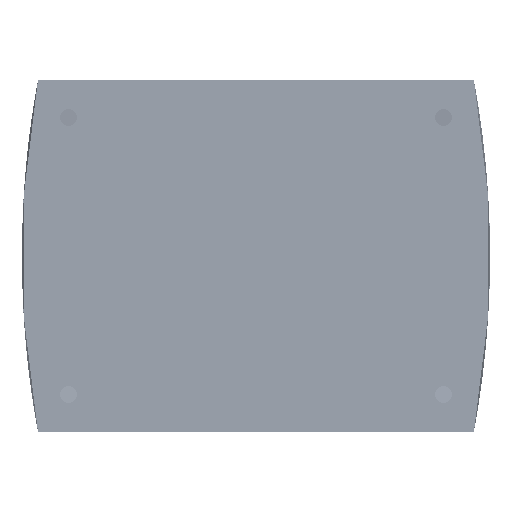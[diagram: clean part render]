
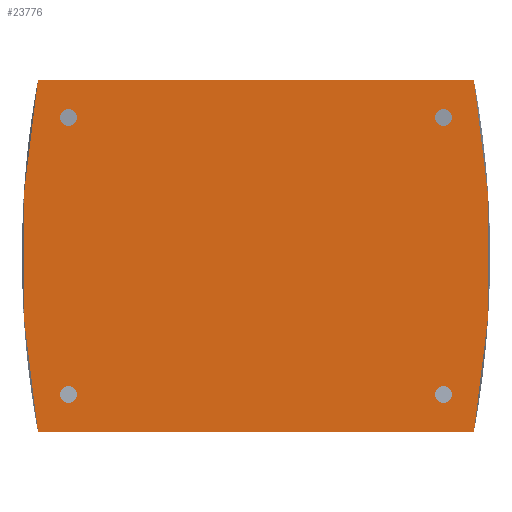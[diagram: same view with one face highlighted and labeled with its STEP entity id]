
A CAD part, front view. The second image highlights one B-rep face of the part: STEP entity #23776.
In plain terms, the highlighted planar face has unit normal (0, -1, 0).
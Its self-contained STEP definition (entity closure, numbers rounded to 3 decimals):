
#1860=FACE_BOUND('',#4768,.T.);
#1861=FACE_BOUND('',#4769,.T.);
#1862=FACE_BOUND('',#4770,.T.);
#1863=FACE_BOUND('',#4771,.T.);
#2089=CIRCLE('',#25510,10.151);
#2090=CIRCLE('',#25513,10.151);
#2091=CIRCLE('',#25514,0.089);
#2092=CIRCLE('',#25515,0.089);
#2093=CIRCLE('',#25516,0.089);
#2094=CIRCLE('',#25517,0.089);
#3359=FACE_OUTER_BOUND('',#4767,.T.);
#4767=EDGE_LOOP('',(#18020,#18021,#18022,#18023));
#4768=EDGE_LOOP('',(#18024));
#4769=EDGE_LOOP('',(#18025));
#4770=EDGE_LOOP('',(#18026));
#4771=EDGE_LOOP('',(#18027));
#6583=LINE('',#38205,#8422);
#6626=LINE('',#38290,#8465);
#8422=VECTOR('',#29152,0.394);
#8465=VECTOR('',#29203,0.394);
#10315=VERTEX_POINT('',#38202);
#10316=VERTEX_POINT('',#38204);
#10336=VERTEX_POINT('',#38249);
#10337=VERTEX_POINT('',#38253);
#10355=VERTEX_POINT('',#38293);
#10356=VERTEX_POINT('',#38295);
#10357=VERTEX_POINT('',#38297);
#10358=VERTEX_POINT('',#38299);
#13092=EDGE_CURVE('',#10315,#10316,#6583,.T.);
#13115=EDGE_CURVE('',#10336,#10316,#2089,.T.);
#13136=EDGE_CURVE('',#10336,#10337,#6626,.T.);
#13137=EDGE_CURVE('',#10315,#10337,#2090,.T.);
#13138=EDGE_CURVE('',#10355,#10355,#2091,.T.);
#13139=EDGE_CURVE('',#10356,#10356,#2092,.T.);
#13140=EDGE_CURVE('',#10357,#10357,#2093,.T.);
#13141=EDGE_CURVE('',#10358,#10358,#2094,.T.);
#18020=ORIENTED_EDGE('',*,*,#13137,.T.);
#18021=ORIENTED_EDGE('',*,*,#13136,.F.);
#18022=ORIENTED_EDGE('',*,*,#13115,.T.);
#18023=ORIENTED_EDGE('',*,*,#13092,.F.);
#18024=ORIENTED_EDGE('',*,*,#13138,.T.);
#18025=ORIENTED_EDGE('',*,*,#13139,.T.);
#18026=ORIENTED_EDGE('',*,*,#13140,.T.);
#18027=ORIENTED_EDGE('',*,*,#13141,.T.);
#22970=PLANE('',#25512);
#23776=ADVANCED_FACE('',(#3359,#1860,#1861,#1862,#1863),#22970,.T.);
#25510=AXIS2_PLACEMENT_3D('',#38250,#29179,#29180);
#25512=AXIS2_PLACEMENT_3D('',#38291,#29204,#29205);
#25513=AXIS2_PLACEMENT_3D('',#38292,#29206,#29207);
#25514=AXIS2_PLACEMENT_3D('',#38294,#29208,#29209);
#25515=AXIS2_PLACEMENT_3D('',#38296,#29210,#29211);
#25516=AXIS2_PLACEMENT_3D('',#38298,#29212,#29213);
#25517=AXIS2_PLACEMENT_3D('',#38300,#29214,#29215);
#29152=DIRECTION('',(-1.,0.,0.));
#29179=DIRECTION('center_axis',(0.,-1.,0.));
#29180=DIRECTION('ref_axis',(0.983,0.,0.182));
#29203=DIRECTION('',(1.,0.,0.));
#29204=DIRECTION('center_axis',(0.,-1.,0.));
#29205=DIRECTION('ref_axis',(0.,0.,-1.));
#29206=DIRECTION('center_axis',(0.,-1.,0.));
#29207=DIRECTION('ref_axis',(-0.983,0.,0.182));
#29208=DIRECTION('center_axis',(0.,1.,0.));
#29209=DIRECTION('ref_axis',(1.,0.,0.));
#29210=DIRECTION('center_axis',(0.,1.,0.));
#29211=DIRECTION('ref_axis',(1.,0.,0.));
#29212=DIRECTION('center_axis',(0.,1.,0.));
#29213=DIRECTION('ref_axis',(1.,0.,0.));
#29214=DIRECTION('center_axis',(0.,1.,0.));
#29215=DIRECTION('ref_axis',(1.,0.,0.));
#38202=CARTESIAN_POINT('',(-0.17,0.,-1.85));
#38204=CARTESIAN_POINT('',(-4.75,0.,-1.85));
#38205=CARTESIAN_POINT('',(0.,0.,-1.85));
#38249=CARTESIAN_POINT('',(-4.75,0.,1.85));
#38250=CARTESIAN_POINT('Origin',(5.231,0.,0.));
#38253=CARTESIAN_POINT('',(-0.17,0.,1.85));
#38290=CARTESIAN_POINT('',(-4.92,0.,1.85));
#38291=CARTESIAN_POINT('Origin',(-2.46,0.,0.));
#38292=CARTESIAN_POINT('Origin',(-10.151,0.,0.));
#38293=CARTESIAN_POINT('',(-4.519,0.,-1.455));
#38294=CARTESIAN_POINT('Origin',(-4.43,0.,-1.455));
#38295=CARTESIAN_POINT('',(-0.578,0.,-1.455));
#38296=CARTESIAN_POINT('Origin',(-0.49,0.,-1.455));
#38297=CARTESIAN_POINT('',(-4.519,0.,1.455));
#38298=CARTESIAN_POINT('Origin',(-4.43,0.,1.455));
#38299=CARTESIAN_POINT('',(-0.578,0.,1.455));
#38300=CARTESIAN_POINT('Origin',(-0.49,0.,1.455));
